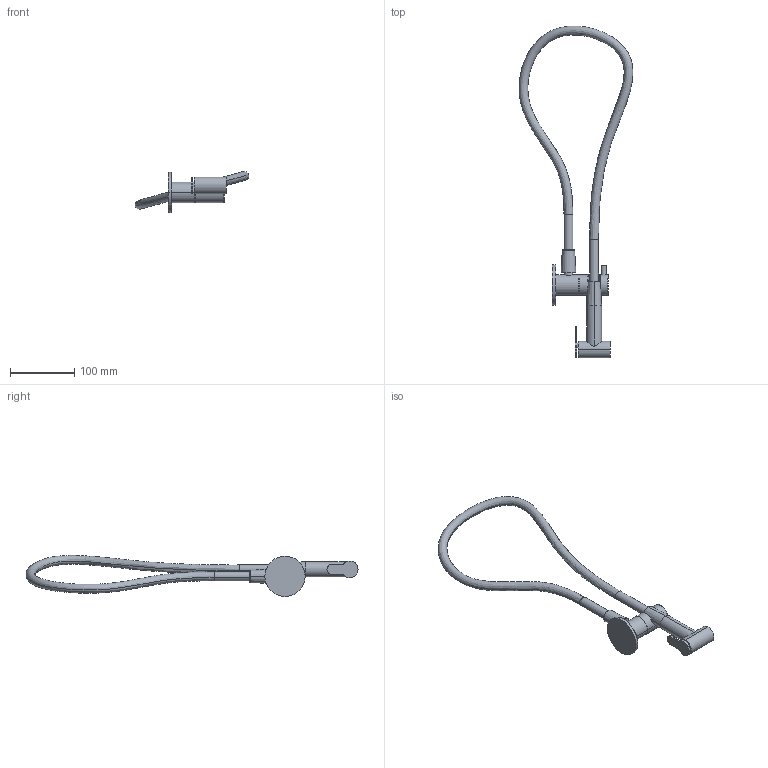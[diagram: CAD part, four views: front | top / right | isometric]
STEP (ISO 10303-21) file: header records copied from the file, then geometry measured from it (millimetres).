
FILE_DESCRIPTION((''),'2;1');
FILE_NAME('69401_SW0001','2023-09-21T14:22:44',('carloff'),(''),'CREO PARAMETRIC BY PTC INC, 2022014','CREO PARAMETRIC BY PTC INC, 2022014','');
FILE_SCHEMA(('CONFIG_CONTROL_DESIGN'));
Length unit declared in the file: millimetre
Products named in the file (1): 69401_SW0001
Bounding box: 178.01 x 518.64 x 64.25 mm (x, y, z)
Volume: 290396.2 mm3; surface area: 70530.8 mm2
Topology: 1 solids, 1 shells, 63 faces, 142 edges, 88 vertices
Faces by surface type: cylinder 24, plane 19, torus 11, cone 5, bspline 4
Entity records: 3543 total; most frequent: CARTESIAN_POINT 2091, DIRECTION 309, ORIENTED_EDGE 284, EDGE_CURVE 142, AXIS2_PLACEMENT_3D 130, VERTEX_POINT 88, CIRCLE 71, EDGE_LOOP 70
